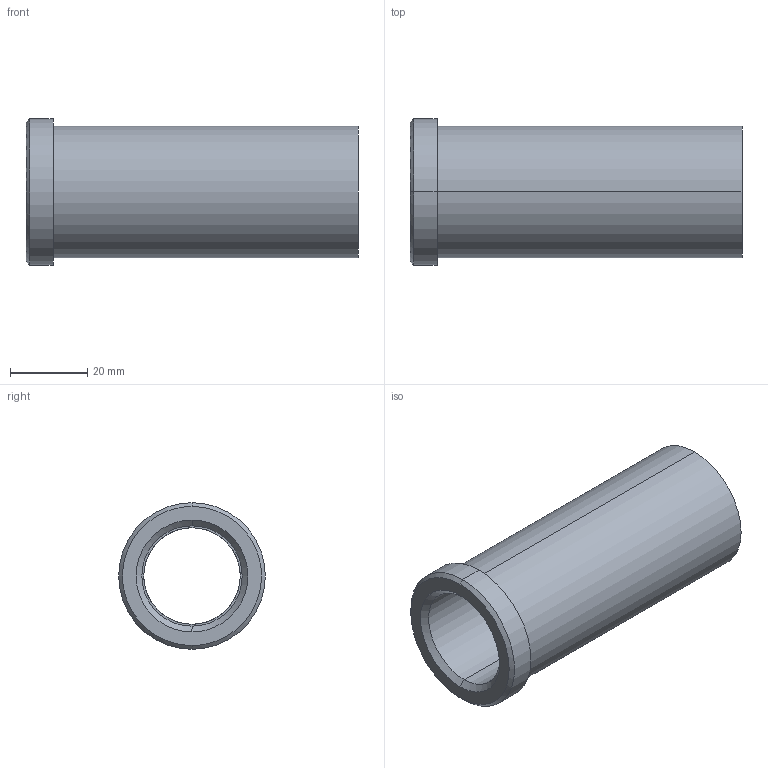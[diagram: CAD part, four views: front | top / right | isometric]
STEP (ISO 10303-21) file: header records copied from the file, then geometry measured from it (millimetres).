
FILE_DESCRIPTION(('CATIA V5 STEP Exchange'),'2;1');
FILE_NAME('C:\Users\Utente\Desktop\IO LAVORO\3D X SITO CF\X SITO\PLASTICA\353\353-25X86.stp','2021-05-12T18:42:14+00:00',('none'),('none'),'CATIA Version 5 Release 20 GA (IN-10)','CATIA V5 STEP AP203','none');
FILE_SCHEMA(('CONFIG_CONTROL_DESIGN'));
Length unit declared in the file: millimetre
Products named in the file (1): 353-25X86
Bounding box: 86 x 38 x 38 mm (x, y, z)
Volume: 35783.5 mm3; surface area: 17222.3 mm2
Topology: 1 solids, 1 shells, 18 faces, 58 edges, 44 vertices
Faces by surface type: cylinder 8, plane 4, cone 4, torus 2
Entity records: 840 total; most frequent: CARTESIAN_POINT 289, ORIENTED_EDGE 116, DIRECTION 82, EDGE_CURVE 58, AXIS2_PLACEMENT_3D 53, VERTEX_POINT 44, CIRCLE 34, EDGE_LOOP 22
